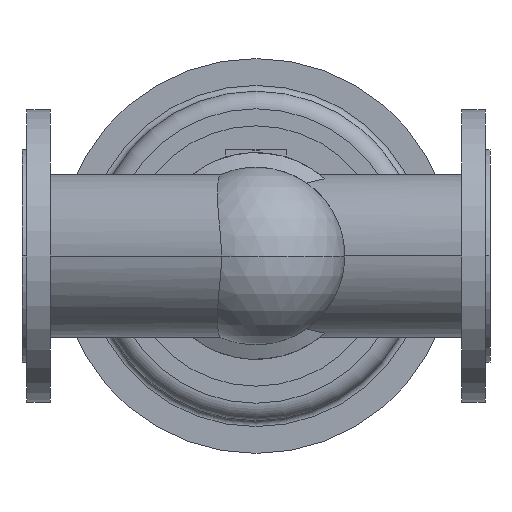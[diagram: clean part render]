
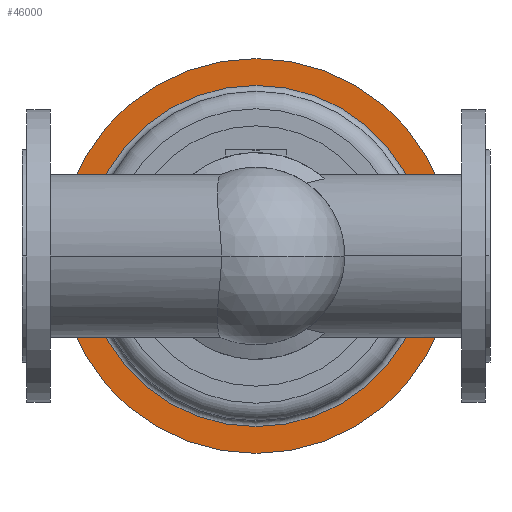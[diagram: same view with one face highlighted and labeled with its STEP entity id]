
A CAD part, front view. The second image highlights one B-rep face of the part: STEP entity #46000.
In plain terms, the highlighted planar face has unit normal (0, -1, 0).
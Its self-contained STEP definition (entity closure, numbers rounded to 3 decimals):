
#33430=CARTESIAN_POINT('',(442.5,675.,0.));
#33440=VERTEX_POINT('',#33430);
#33470=CARTESIAN_POINT('',(240.,675.,0.));
#33480=DIRECTION('',(0.,1.,0.));
#33490=DIRECTION('',(1.,0.,0.));
#33500=AXIS2_PLACEMENT_3D('',#33470,#33480,#33490);
#33510=CIRCLE('',#33500,202.5);
#33520=CARTESIAN_POINT('',(37.5,675.,0.));
#33530=VERTEX_POINT('',#33520);
#33540=EDGE_CURVE('',#33530,#33440,#33510,.T.);
#33860=CARTESIAN_POINT('',(415.,675.,0.));
#33870=VERTEX_POINT('',#33860);
#33900=CARTESIAN_POINT('',(240.,675.,0.));
#33910=DIRECTION('',(0.,1.,0.));
#33920=DIRECTION('',(1.,0.,0.));
#33930=AXIS2_PLACEMENT_3D('',#33900,#33910,#33920);
#33940=CIRCLE('',#33930,175.);
#33950=CARTESIAN_POINT('',(240.,675.,-175.));
#33960=VERTEX_POINT('',#33950);
#33970=EDGE_CURVE('',#33870,#33960,#33940,.T.);
#33990=CARTESIAN_POINT('',(65.,675.,0.));
#34000=VERTEX_POINT('',#33990);
#34010=EDGE_CURVE('',#33960,#34000,#33940,.T.);
#45840=CARTESIAN_POINT('',(428.75,675.,0.));
#45850=DIRECTION('',(0.,-1.,0.));
#45860=DIRECTION('',(-1.,0.,0.));
#45870=AXIS2_PLACEMENT_3D('',#45840,#45850,#45860);
#45880=PLANE('',#45870);
#45890=ORIENTED_EDGE('',*,*,#33540,.F.);
#45900=EDGE_CURVE('',#33440,#33530,#33510,.T.);
#45910=ORIENTED_EDGE('',*,*,#45900,.F.);
#45920=EDGE_LOOP('',(#45910,#45890));
#45930=FACE_OUTER_BOUND('',#45920,.T.);
#45940=EDGE_CURVE('',#34000,#33870,#33940,.T.);
#45950=ORIENTED_EDGE('',*,*,#45940,.T.);
#45960=ORIENTED_EDGE('',*,*,#34010,.T.);
#45970=ORIENTED_EDGE('',*,*,#33970,.T.);
#45980=EDGE_LOOP('',(#45970,#45960,#45950));
#45990=FACE_BOUND('',#45980,.T.);
#46000=ADVANCED_FACE('',(#45930,#45990),#45880,.T.);
